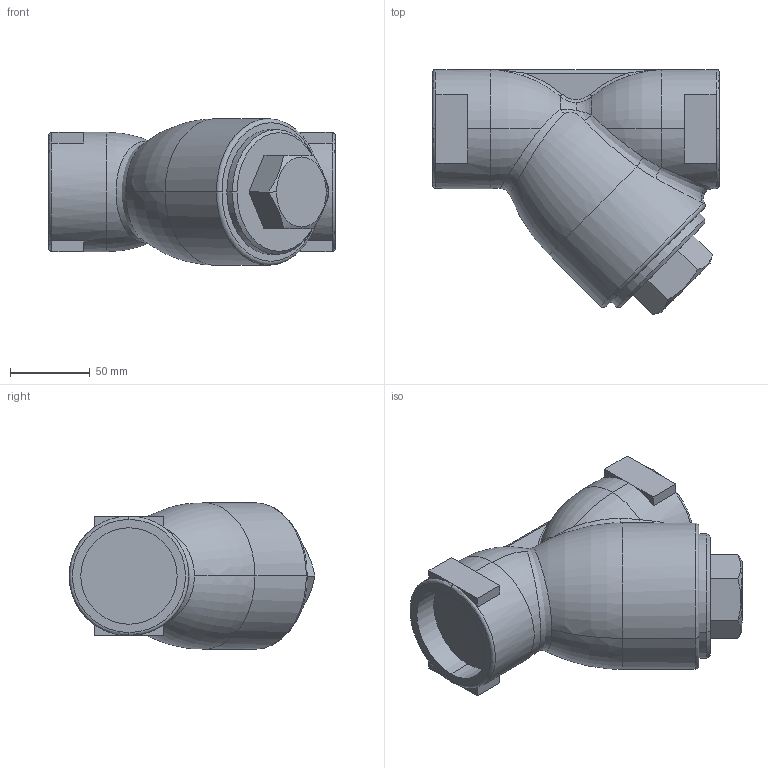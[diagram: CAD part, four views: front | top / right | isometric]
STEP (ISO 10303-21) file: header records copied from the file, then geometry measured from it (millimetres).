
FILE_DESCRIPTION (( 'STEP AP203' ), '1' );
FILE_NAME ('SY-17 50A.STEP', '2025-09-30T00:43:30', ( '' ), ( '' ), 'SwSTEP 2.0', 'SolidWorks 2024', '' );
FILE_SCHEMA (( 'CONFIG_CONTROL_DESIGN' ));
Length unit declared in the file: millimetre
Products named in the file (1): SY-17 50A
Bounding box: 180 x 154.09 x 92 mm (x, y, z)
Volume: 1158940.3 mm3; surface area: 81494.1 mm2
Topology: 1 solids, 1 shells, 99 faces, 227 edges, 130 vertices
Faces by surface type: plane 43, bspline 20, torus 19, cylinder 13, cone 4
Entity records: 4666 total; most frequent: CARTESIAN_POINT 2517, ORIENTED_EDGE 446, DIRECTION 415, EDGE_CURVE 223, AXIS2_PLACEMENT_3D 168, VERTEX_POINT 130, EDGE_LOOP 103, FACE_OUTER_BOUND 99
